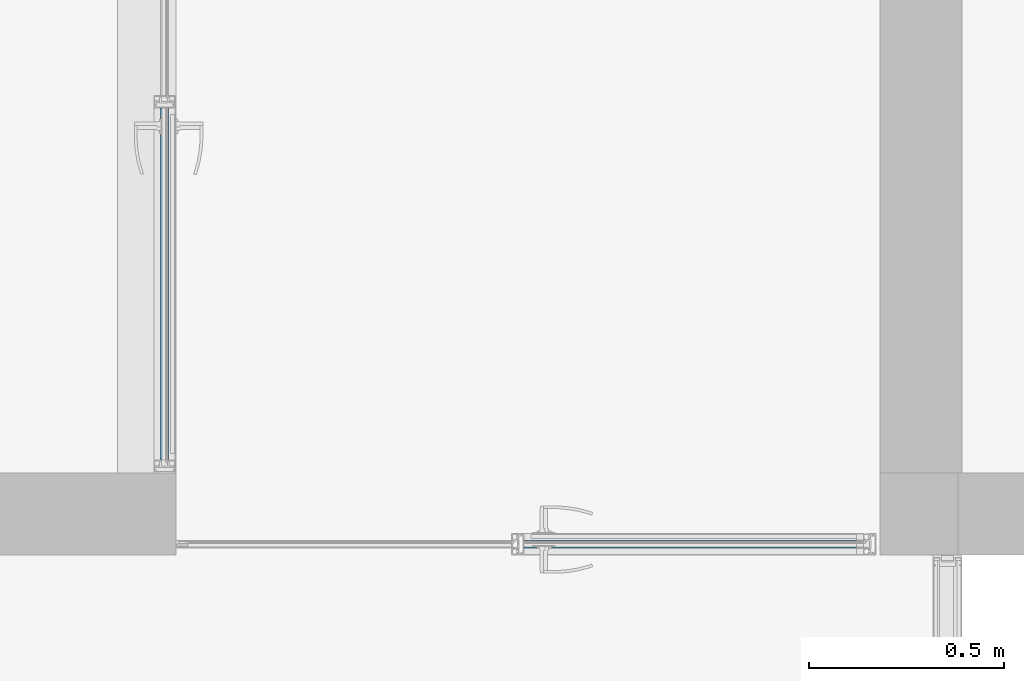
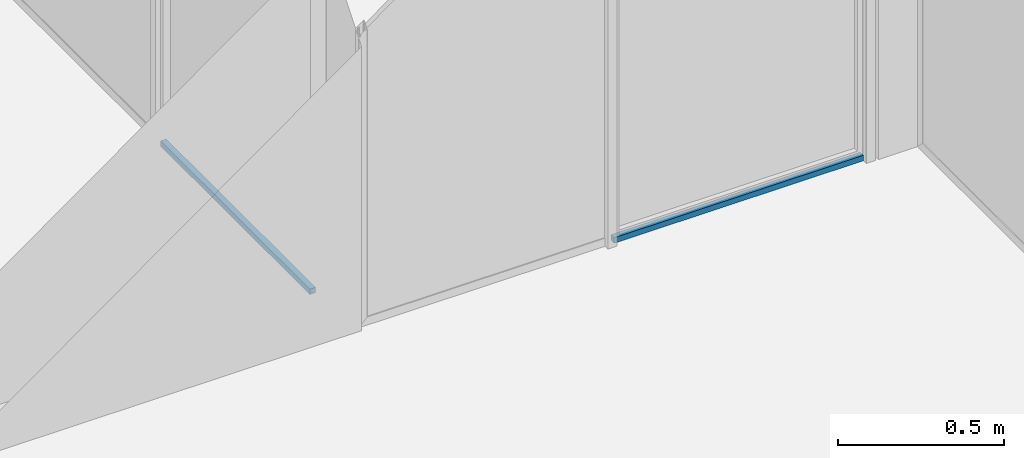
# One storey, part 12 of 387: 2 members, 2 elements without a shape of their own.
"""IFC2X3 building model written with IfcOpenShell, lengths in millimetres."""

from ifc_helpers import new_model, entity, si_unit, converted_unit, derived_unit, money_unit, direction, frame, origin_with_axes, place, context, subcontext, project, spatial, polyline, outline, extrude, material, type_object, element, aggregate, save


model = new_model("IFC2X3")

# Units and contexts
model_context = context("Model", 3, precision=0.01, world=origin_with_axes(), true_north=direction((0.0, 1.0)))
body_context = subcontext(model_context, "Body", "Model", "MODEL_VIEW")
ifc_project = project(units=[si_unit("LENGTHUNIT", "METRE", prefix="MILLI"), si_unit("AREAUNIT", "SQUARE_METRE"), si_unit("VOLUMEUNIT", "CUBIC_METRE"), converted_unit("PLANEANGLEUNIT", "DEGREE", entity("IfcPlaneAngleMeasure", 0.0174532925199), si_unit("PLANEANGLEUNIT", "RADIAN"), dimensions=[0, 0, 0, 0, 0, 0, 0]), si_unit("SOLIDANGLEUNIT", "STERADIAN"), money_unit("EUR"), converted_unit("TIMEUNIT", "Year", entity("IfcTimeMeasure", 31556926.0), si_unit("TIMEUNIT", "SECOND"), dimensions=[0, 0, 1, 0, 0, 0, 0]), si_unit("MASSUNIT", "GRAM", prefix="KILO"), si_unit("THERMODYNAMICTEMPERATUREUNIT", "DEGREE_CELSIUS"), si_unit("LUMINOUSINTENSITYUNIT", "LUMEN"), si_unit("ENERGYUNIT", "JOULE", prefix="MEGA"), derived_unit("THERMALCONDUCTANCEUNIT", [(si_unit("POWERUNIT", "WATT"), 1), (si_unit("LENGTHUNIT", "METRE"), -1), (si_unit("THERMODYNAMICTEMPERATUREUNIT", "KELVIN"), -1)]), derived_unit("SPECIFICHEATCAPACITYUNIT", [(si_unit("ENERGYUNIT", "JOULE"), 1), (si_unit("MASSUNIT", "GRAM", prefix="KILO"), -1), (si_unit("THERMODYNAMICTEMPERATUREUNIT", "KELVIN"), -1)]), derived_unit("MASSDENSITYUNIT", [(si_unit("MASSUNIT", "GRAM", prefix="KILO"), 1), (si_unit("VOLUMEUNIT", "CUBIC_METRE"), -1)])], contexts=[model_context])

# Site, building, storey
site_placement = place(None, origin_with_axes())
site = spatial("IfcSite", under=ifc_project, at=site_placement, Name="Puškini 31, Narva", CompositionType="ELEMENT")
building_placement = place(site_placement, origin_with_axes())
building = spatial("IfcBuilding", under=site, at=building_placement, Name="Narva Riigigümnaasium", CompositionType="ELEMENT")
storey_placement = place(building_placement, frame((0.0, 0.0, 2640.0), z_axis=(0.0, 0.0, 1.0), x_axis=(1.0, 0.0, 0.0)))
storey = spatial("IfcBuildingStorey", under=building, at=storey_placement, Name="2.korrus +2.64", CompositionType="ELEMENT", Elevation=2640.0)

# Curtain wall, member
curtain_wall_type = type_object("IfcCurtainWallType", Name="Curtain Wall Type", PredefinedType="NOTDEFINED")
curtain_wall_1_placement = place(storey_placement, frame((28369.9999994, 164166.500006, -9.21871734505e-06), z_axis=(0.0, 0.0, 1.0), x_axis=(1.0, 0.0, 0.0)))
curtain_wall_1 = element("IfcCurtainWall", 1, at=curtain_wall_1_placement, inside=storey, type_object=curtain_wall_type, Name="G-SKLF-11")
ifc_material = material(Name="ET-04_Alumiinium")
member_type = type_object("IfcMemberType", Name="20 x 20", PredefinedType="MULLION")
member_1_placement = place(curtain_wall_1_placement, frame((-8.29913915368e-09, -466.5, 0.0), z_axis=(0.0, 1.0, 0.0), x_axis=(0.0, 0.0, 1.0)))
member_1 = element("IfcMember", 2, at=member_1_placement, type_object=member_type, material=ifc_material, Name="G-SKLF-12-raam", ObjectType="MULLION", context=body_context, shape_type="SweptSolid", body=[
    extrude(outline(polyline([(-10.0, -20.0), (10.0, -20.0), (10.0, 0.0), (-10.0, 0.0), (-10.0, -20.0)])), frame((0.0, 0.0, 32.0000000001), z_axis=(0.0, 0.0, 1.0), x_axis=(0.0, 1.0, 0.0)), (0.0, 0.0, 1.0), 901.0),
])
aggregate(curtain_wall_1, [member_1])

curtain_wall_2_placement = place(storey_placement, frame((29819.999977, 163516.999995, -2.6516426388e-05), z_axis=(0.0, 0.0, 1.0), x_axis=(1.0, 0.0, 0.0)))
curtain_wall_2 = element("IfcCurtainWall", 3, at=curtain_wall_2_placement, inside=storey, type_object=curtain_wall_type, Name="G-SKLF-46")
member_2_placement = place(curtain_wall_2_placement, frame((370.000000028, -1.03170805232e-08, 0.0), z_axis=(-1.0, 0.0, 0.0), x_axis=(0.0, 0.0, 1.0)))
member_2 = element("IfcMember", 4, at=member_2_placement, type_object=member_type, material=ifc_material, Name="G-SKLF-47-raam", ObjectType="MULLION", context=body_context, shape_type="SweptSolid", body=[
    extrude(outline(polyline([(-9.99999999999, -20.0), (9.99999999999, -20.0), (9.99999999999, 0.0), (-9.99999999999, 0.0), (-9.99999999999, -20.0)])), frame((0.0, 0.0, 32.0000000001), z_axis=(0.0, 0.0, 1.0), x_axis=(0.0, 1.0, 0.0)), (0.0, 0.0, 1.0), 868.0),
])
aggregate(curtain_wall_2, [member_2])

save(model, "model.ifc")
